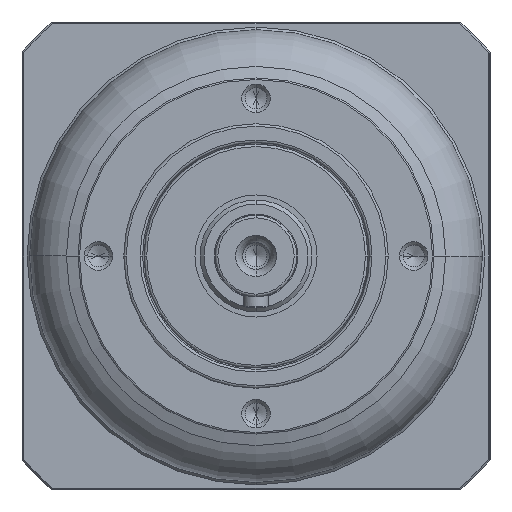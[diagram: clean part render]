
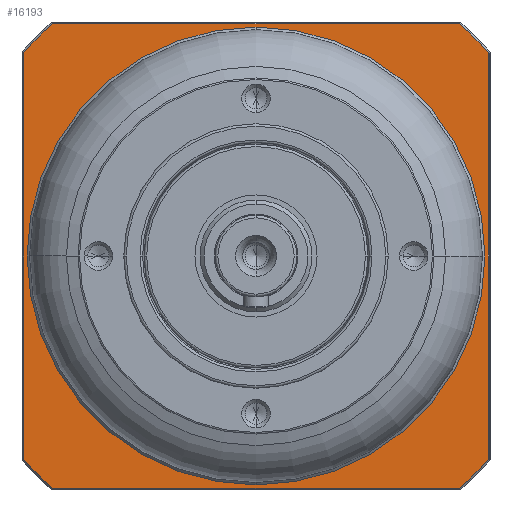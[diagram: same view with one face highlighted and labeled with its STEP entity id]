
A CAD part, left-side view. The second image highlights one B-rep face of the part: STEP entity #16193.
In plain terms, the highlighted planar face has unit normal (-1, 0, 0) as drawn and (0, 0, -1) by its records, which use the part's own axes.
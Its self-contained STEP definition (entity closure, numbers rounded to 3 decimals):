
#15088=CARTESIAN_POINT('',(0.,0.,
2.5));
#15089=DIRECTION('',(0.,0.,-1.));
#15090=DIRECTION('',(0.,-1.,0.));
#15091=AXIS2_PLACEMENT_3D('',#15088,#15089,#15090);
#15093=CARTESIAN_POINT('',(0.,0.,
2.5));
#15094=DIRECTION('',(0.,0.,-1.));
#15095=DIRECTION('',(0.,1.,0.));
#15096=AXIS2_PLACEMENT_3D('',#15093,#15094,#15095);
#15098=CARTESIAN_POINT('',(0.,0.,2.5));
#15099=DIRECTION('',(0.,0.,1.));
#15100=DIRECTION('',(-0.753,-0.658,0.));
#15101=AXIS2_PLACEMENT_3D('',#15098,#15099,#15100);
#15103=DIRECTION('',(1.,0.,0.));
#15104=VECTOR('',#15103,79.9);
#15105=CARTESIAN_POINT('',(-39.95,-45.7,
2.5));
#15106=LINE('',#15105,#15104);
#15107=CARTESIAN_POINT('',(0.,0.,2.5));
#15108=DIRECTION('',(0.,0.,1.));
#15109=DIRECTION('',(0.658,-0.753,0.));
#15110=AXIS2_PLACEMENT_3D('',#15107,#15108,#15109);
#15112=DIRECTION('',(0.,1.,0.));
#15113=VECTOR('',#15112,79.9);
#15114=CARTESIAN_POINT('',(45.7,-39.95,
2.5));
#15115=LINE('',#15114,#15113);
#15116=CARTESIAN_POINT('',(0.,0.,2.5));
#15117=DIRECTION('',(0.,0.,1.));
#15118=DIRECTION('',(0.753,0.658,0.));
#15119=AXIS2_PLACEMENT_3D('',#15116,#15117,#15118);
#15121=DIRECTION('',(-1.,0.,0.));
#15122=VECTOR('',#15121,79.9);
#15123=CARTESIAN_POINT('',(39.95,45.7,2.5));
#15124=LINE('',#15123,#15122);
#15125=CARTESIAN_POINT('',(0.,0.,2.5));
#15126=DIRECTION('',(0.,0.,1.));
#15127=DIRECTION('',(-0.658,0.753,0.));
#15128=AXIS2_PLACEMENT_3D('',#15125,#15126,#15127);
#15130=DIRECTION('',(0.,-1.,0.));
#15131=VECTOR('',#15130,79.9);
#15132=CARTESIAN_POINT('',(-45.7,39.95,
2.5));
#15133=LINE('',#15132,#15131);
#15850=CARTESIAN_POINT('',(0.,-45.,2.5));
#15851=CARTESIAN_POINT('',(0.,45.,
2.5));
#15852=VERTEX_POINT('',#15850);
#15853=VERTEX_POINT('',#15851);
#15922=CARTESIAN_POINT('',(-45.7,-39.95,2.5));
#15923=CARTESIAN_POINT('',(-39.95,-45.7,2.5));
#15924=VERTEX_POINT('',#15922);
#15925=VERTEX_POINT('',#15923);
#15930=CARTESIAN_POINT('',(39.95,-45.7,
2.5));
#15931=VERTEX_POINT('',#15930);
#15934=CARTESIAN_POINT('',(45.7,-39.95,2.5));
#15935=VERTEX_POINT('',#15934);
#15938=CARTESIAN_POINT('',(45.7,39.95,2.5));
#15939=VERTEX_POINT('',#15938);
#15942=CARTESIAN_POINT('',(39.95,45.7,2.5));
#15943=VERTEX_POINT('',#15942);
#15946=CARTESIAN_POINT('',(-39.95,45.7,
2.5));
#15947=VERTEX_POINT('',#15946);
#15952=CARTESIAN_POINT('',(-45.7,39.95,2.5));
#15953=VERTEX_POINT('',#15952);
#16165=CARTESIAN_POINT('',(0.,0.,2.5));
#16166=DIRECTION('',(0.,0.,1.));
#16167=DIRECTION('',(0.,1.,0.));
#16168=AXIS2_PLACEMENT_3D('',#16165,#16166,#16167);
#16169=PLANE('',#16168);
#16171=ORIENTED_EDGE('',*,*,#16170,.T.);
#16173=ORIENTED_EDGE('',*,*,#16172,.T.);
#16175=ORIENTED_EDGE('',*,*,#16174,.T.);
#16177=ORIENTED_EDGE('',*,*,#16176,.T.);
#16179=ORIENTED_EDGE('',*,*,#16178,.T.);
#16181=ORIENTED_EDGE('',*,*,#16180,.T.);
#16183=ORIENTED_EDGE('',*,*,#16182,.T.);
#16185=ORIENTED_EDGE('',*,*,#16184,.T.);
#16186=EDGE_LOOP('',(#16171,#16173,#16175,#16177,#16179,#16181,#16183,#16185));
#16187=FACE_OUTER_BOUND('',#16186,.F.);
#16189=ORIENTED_EDGE('',*,*,#16188,.T.);
#16190=ORIENTED_EDGE('',*,*,#16155,.T.);
#16191=EDGE_LOOP('',(#16189,#16190));
#16192=FACE_BOUND('',#16191,.F.);
#16193=ADVANCED_FACE('',(#16187,#16192),#16169,.F.);
#15092=CIRCLE('',#15091,45.);
#15097=CIRCLE('',#15096,45.);
#15102=CIRCLE('',#15101,60.7);
#15111=CIRCLE('',#15110,60.7);
#15120=CIRCLE('',#15119,60.7);
#15129=CIRCLE('',#15128,60.7);
#16155=EDGE_CURVE('',#15853,#15852,#15097,.T.);
#16170=EDGE_CURVE('',#15924,#15925,#15102,.T.);
#16172=EDGE_CURVE('',#15925,#15931,#15106,.T.);
#16174=EDGE_CURVE('',#15931,#15935,#15111,.T.);
#16176=EDGE_CURVE('',#15935,#15939,#15115,.T.);
#16178=EDGE_CURVE('',#15939,#15943,#15120,.T.);
#16180=EDGE_CURVE('',#15943,#15947,#15124,.T.);
#16182=EDGE_CURVE('',#15947,#15953,#15129,.T.);
#16184=EDGE_CURVE('',#15953,#15924,#15133,.T.);
#16188=EDGE_CURVE('',#15852,#15853,#15092,.T.);
